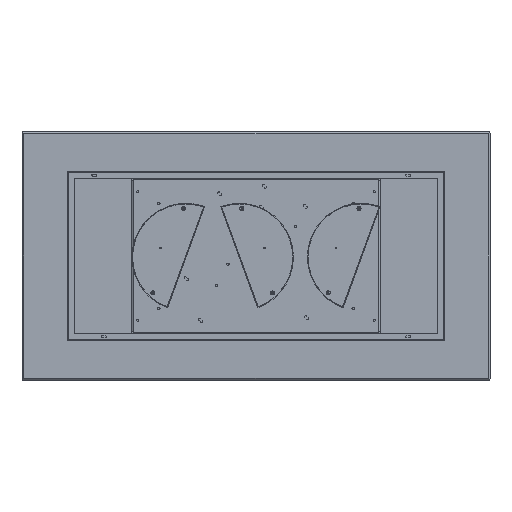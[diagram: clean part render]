
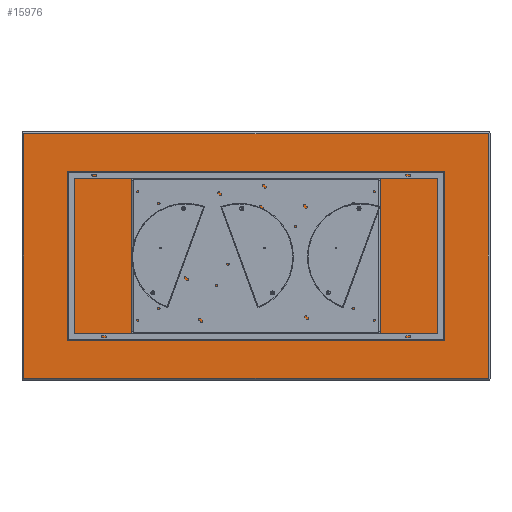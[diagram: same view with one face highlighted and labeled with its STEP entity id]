
A CAD part, front view. The second image highlights one B-rep face of the part: STEP entity #15976.
In plain terms, the highlighted planar face has unit normal (0, -1, 0).
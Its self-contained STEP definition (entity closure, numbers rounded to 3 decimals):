
#394 = VECTOR ( 'NONE', #14076, 1000. ) ;
#681 = CARTESIAN_POINT ( 'NONE',  ( -992., 0., 0. ) ) ;
#732 = CARTESIAN_POINT ( 'NONE',  ( 992., 0., 0. ) ) ;
#1455 = VERTEX_POINT ( 'NONE', #6164 ) ;
#1948 = VECTOR ( 'NONE', #5285, 1000. ) ;
#2060 = ORIENTED_EDGE ( 'NONE', *, *, #15116, .T. ) ;
#2068 = EDGE_CURVE ( 'NONE', #1455, #6608, #9434, .T. ) ;
#2164 = DIRECTION ( 'NONE',  ( 1., 0., 0. ) ) ;
#2331 = CARTESIAN_POINT ( 'NONE',  ( 0., 0., 522. ) ) ;
#2432 = CARTESIAN_POINT ( 'NONE',  ( 992., 0., -522. ) ) ;
#2565 = EDGE_CURVE ( 'NONE', #18698, #1455, #18498, .T. ) ;
#3526 = CARTESIAN_POINT ( 'NONE',  ( 0., 0., -522. ) ) ;
#3562 = LINE ( 'NONE', #732, #1948 ) ;
#4963 = LINE ( 'NONE', #3526, #12710 ) ;
#5285 = DIRECTION ( 'NONE',  ( 0., 0., 1. ) ) ;
#6164 = CARTESIAN_POINT ( 'NONE',  ( -992., 0., 522. ) ) ;
#6493 = VECTOR ( 'NONE', #12293, 1000. ) ;
#6608 = VERTEX_POINT ( 'NONE', #7949 ) ;
#7244 = AXIS2_PLACEMENT_3D ( 'NONE', #9048, #14940, #10587 ) ;
#7377 = FACE_OUTER_BOUND ( 'NONE', #16826, .T. ) ;
#7949 = CARTESIAN_POINT ( 'NONE',  ( -992., 0., -522. ) ) ;
#9048 = CARTESIAN_POINT ( 'NONE',  ( 0., 0., 0. ) ) ;
#9434 = LINE ( 'NONE', #681, #394 ) ;
#10587 = DIRECTION ( 'NONE',  ( 0., 0., 1. ) ) ;
#10670 = ORIENTED_EDGE ( 'NONE', *, *, #2565, .T. ) ;
#10763 = EDGE_CURVE ( 'NONE', #6608, #12909, #4963, .T. ) ;
#11150 = ORIENTED_EDGE ( 'NONE', *, *, #10763, .T. ) ;
#12293 = DIRECTION ( 'NONE',  ( -1., 0., 0. ) ) ;
#12710 = VECTOR ( 'NONE', #2164, 1000. ) ;
#12909 = VERTEX_POINT ( 'NONE', #2432 ) ;
#13847 = CARTESIAN_POINT ( 'NONE',  ( 992., 0., 522. ) ) ;
#14076 = DIRECTION ( 'NONE',  ( 0., 0., -1. ) ) ;
#14838 = PLANE ( 'NONE',  #7244 ) ;
#14940 = DIRECTION ( 'NONE',  ( 0., 1., 0. ) ) ;
#15116 = EDGE_CURVE ( 'NONE', #12909, #18698, #3562, .T. ) ;
#15976 = ADVANCED_FACE ( 'NONE', ( #7377 ), #14838, .F. ) ;
#16264 = ORIENTED_EDGE ( 'NONE', *, *, #2068, .T. ) ;
#16826 = EDGE_LOOP ( 'NONE', ( #2060, #10670, #16264, #11150 ) ) ;
#18498 = LINE ( 'NONE', #2331, #6493 ) ;
#18698 = VERTEX_POINT ( 'NONE', #13847 ) ;
